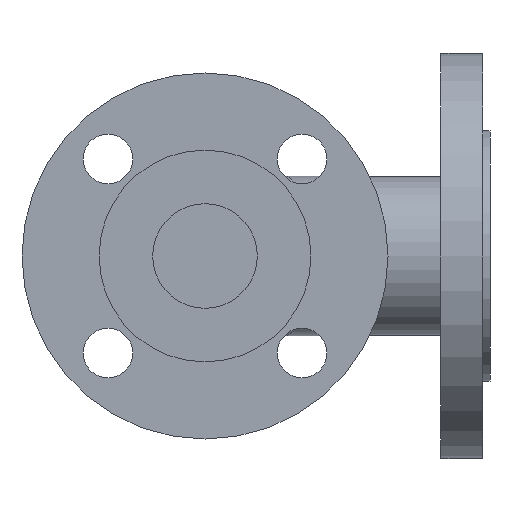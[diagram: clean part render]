
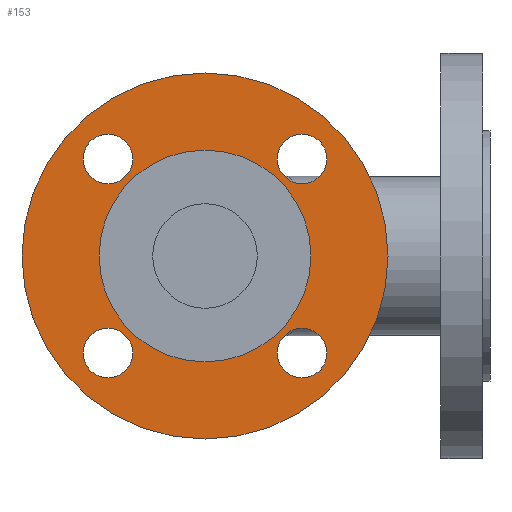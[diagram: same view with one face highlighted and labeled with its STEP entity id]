
A CAD part, front view. The second image highlights one B-rep face of the part: STEP entity #153.
In plain terms, the highlighted planar face has unit normal (0, -1, 0).
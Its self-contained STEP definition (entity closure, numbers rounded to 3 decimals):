
#153=ADVANCED_FACE('',(#711,#712,#713,#714,#715,#716),#710,.T.);
#710=PLANE('',#2372);
#711=FACE_OUTER_BOUND('',#2373,.T.);
#712=FACE_BOUND('',#2374,.T.);
#713=FACE_BOUND('',#2375,.T.);
#714=FACE_BOUND('',#2376,.T.);
#715=FACE_BOUND('',#2377,.T.);
#716=FACE_BOUND('',#2378,.T.);
#2369=CARTESIAN_POINT('',(-131.244,-134.,80.));
#2370=DIRECTION('',(0.,-1.,0.));
#2371=DIRECTION('',(0.,0.,-1.));
#2372=AXIS2_PLACEMENT_3D('',#2369,#2370,#2371);
#2373=EDGE_LOOP('',(#4756,#4757));
#2374=EDGE_LOOP('',(#4758,#4759));
#2375=EDGE_LOOP('',(#4760,#4761,#4762));
#2376=EDGE_LOOP('',(#4763,#4764));
#2377=EDGE_LOOP('',(#4765,#4766));
#2378=EDGE_LOOP('',(#4767,#4768,#4769));
#4756=ORIENTED_EDGE('',*,*,#5581,.F.);
#4757=ORIENTED_EDGE('',*,*,#5582,.F.);
#4758=ORIENTED_EDGE('',*,*,#5583,.F.);
#4759=ORIENTED_EDGE('',*,*,#5584,.F.);
#4760=ORIENTED_EDGE('',*,*,#5585,.F.);
#4761=ORIENTED_EDGE('',*,*,#5586,.F.);
#4762=ORIENTED_EDGE('',*,*,#5587,.F.);
#4763=ORIENTED_EDGE('',*,*,#5588,.F.);
#4764=ORIENTED_EDGE('',*,*,#5589,.F.);
#4765=ORIENTED_EDGE('',*,*,#5590,.T.);
#4766=ORIENTED_EDGE('',*,*,#5591,.T.);
#4767=ORIENTED_EDGE('',*,*,#5592,.F.);
#4768=ORIENTED_EDGE('',*,*,#5593,.F.);
#4769=ORIENTED_EDGE('',*,*,#5594,.F.);
#5581=EDGE_CURVE('',#6725,#6726,#6727,.T.);
#5582=EDGE_CURVE('',#6726,#6725,#6733,.T.);
#5583=EDGE_CURVE('',#6739,#6740,#6741,.T.);
#5584=EDGE_CURVE('',#6740,#6739,#6747,.T.);
#5585=EDGE_CURVE('',#6753,#6754,#6755,.T.);
#5586=EDGE_CURVE('',#6761,#6753,#6762,.T.);
#5587=EDGE_CURVE('',#6754,#6761,#6768,.T.);
#5588=EDGE_CURVE('',#6774,#6775,#6776,.T.);
#5589=EDGE_CURVE('',#6775,#6774,#6782,.T.);
#5590=EDGE_CURVE('',#6788,#6789,#6790,.T.);
#5591=EDGE_CURVE('',#6789,#6788,#6796,.T.);
#5592=EDGE_CURVE('',#6802,#6803,#6804,.T.);
#5593=EDGE_CURVE('',#6810,#6802,#6811,.T.);
#5594=EDGE_CURVE('',#6803,#6810,#6817,.T.);
#6725=VERTEX_POINT('',#9528);
#6726=VERTEX_POINT('',#9529);
#6727=CIRCLE('',#9533,70.);
#6733=CIRCLE('',#9537,70.);
#6739=VERTEX_POINT('',#9538);
#6740=VERTEX_POINT('',#9539);
#6741=CIRCLE('',#9543,9.5);
#6747=CIRCLE('',#9547,9.5);
#6753=VERTEX_POINT('',#9548);
#6754=VERTEX_POINT('',#9549);
#6755=CIRCLE('',#9553,9.5);
#6761=VERTEX_POINT('',#9554);
#6762=CIRCLE('',#9558,9.5);
#6768=CIRCLE('',#9562,9.5);
#6774=VERTEX_POINT('',#9563);
#6775=VERTEX_POINT('',#9564);
#6776=CIRCLE('',#9568,9.5);
#6782=CIRCLE('',#9572,9.5);
#6788=VERTEX_POINT('',#9573);
#6789=VERTEX_POINT('',#9574);
#6790=CIRCLE('',#9578,40.5);
#6796=CIRCLE('',#9582,40.5);
#6802=VERTEX_POINT('',#9583);
#6803=VERTEX_POINT('',#9584);
#6804=CIRCLE('',#9588,9.5);
#6810=VERTEX_POINT('',#9589);
#6811=CIRCLE('',#9593,9.5);
#6817=CIRCLE('',#9597,9.5);
#9528=CARTESIAN_POINT('',(0.,-134.,-70.));
#9529=CARTESIAN_POINT('',(0.,-134.,70.));
#9530=CARTESIAN_POINT('',(0.,-134.,0.));
#9531=DIRECTION('',(0.,1.,0.));
#9532=DIRECTION('',(0.,0.,1.));
#9533=AXIS2_PLACEMENT_3D('',#9530,#9531,#9532);
#9534=CARTESIAN_POINT('',(0.,-134.,0.));
#9535=DIRECTION('',(0.,1.,0.));
#9536=DIRECTION('',(0.,0.,1.));
#9537=AXIS2_PLACEMENT_3D('',#9534,#9535,#9536);
#9538=CARTESIAN_POINT('',(37.123,-134.,-46.623));
#9539=CARTESIAN_POINT('',(37.123,-134.,-27.623));
#9540=CARTESIAN_POINT('',(37.123,-134.,-37.123));
#9541=DIRECTION('',(0.,-1.,0.));
#9542=DIRECTION('',(0.,0.,1.));
#9543=AXIS2_PLACEMENT_3D('',#9540,#9541,#9542);
#9544=CARTESIAN_POINT('',(37.123,-134.,-37.123));
#9545=DIRECTION('',(0.,-1.,0.));
#9546=DIRECTION('',(0.,0.,1.));
#9547=AXIS2_PLACEMENT_3D('',#9544,#9545,#9546);
#9548=CARTESIAN_POINT('',(37.123,-134.,46.623));
#9549=CARTESIAN_POINT('',(27.623,-134.,37.123));
#9550=CARTESIAN_POINT('',(37.123,-134.,37.123));
#9551=DIRECTION('',(0.,-1.,0.));
#9552=DIRECTION('',(-1.,0.,0.));
#9553=AXIS2_PLACEMENT_3D('',#9550,#9551,#9552);
#9554=CARTESIAN_POINT('',(37.124,-134.,27.623));
#9555=CARTESIAN_POINT('',(37.123,-134.,37.123));
#9556=DIRECTION('',(0.,-1.,0.));
#9557=DIRECTION('',(-1.,0.,0.));
#9558=AXIS2_PLACEMENT_3D('',#9555,#9556,#9557);
#9559=CARTESIAN_POINT('',(37.123,-134.,37.123));
#9560=DIRECTION('',(0.,-1.,0.));
#9561=DIRECTION('',(-1.,0.,0.));
#9562=AXIS2_PLACEMENT_3D('',#9559,#9560,#9561);
#9563=CARTESIAN_POINT('',(-37.123,-134.,46.623));
#9564=CARTESIAN_POINT('',(-37.123,-134.,27.623));
#9565=CARTESIAN_POINT('',(-37.123,-134.,37.123));
#9566=DIRECTION('',(0.,-1.,0.));
#9567=DIRECTION('',(0.,0.,-1.));
#9568=AXIS2_PLACEMENT_3D('',#9565,#9566,#9567);
#9569=CARTESIAN_POINT('',(-37.123,-134.,37.123));
#9570=DIRECTION('',(0.,-1.,0.));
#9571=DIRECTION('',(0.,0.,-1.));
#9572=AXIS2_PLACEMENT_3D('',#9569,#9570,#9571);
#9573=CARTESIAN_POINT('',(0.,-134.,40.5));
#9574=CARTESIAN_POINT('',(0.,-134.,-40.5));
#9575=CARTESIAN_POINT('',(0.,-134.,0.));
#9576=DIRECTION('',(0.,1.,0.));
#9577=DIRECTION('',(0.,0.,1.));
#9578=AXIS2_PLACEMENT_3D('',#9575,#9576,#9577);
#9579=CARTESIAN_POINT('',(0.,-134.,0.));
#9580=DIRECTION('',(0.,1.,0.));
#9581=DIRECTION('',(0.,0.,1.));
#9582=AXIS2_PLACEMENT_3D('',#9579,#9580,#9581);
#9583=CARTESIAN_POINT('',(-37.124,-134.,-46.623));
#9584=CARTESIAN_POINT('',(-27.623,-134.,-37.123));
#9585=CARTESIAN_POINT('',(-37.123,-134.,-37.123));
#9586=DIRECTION('',(0.,-1.,0.));
#9587=DIRECTION('',(1.,0.,0.));
#9588=AXIS2_PLACEMENT_3D('',#9585,#9586,#9587);
#9589=CARTESIAN_POINT('',(-37.123,-134.,-27.623));
#9590=CARTESIAN_POINT('',(-37.123,-134.,-37.123));
#9591=DIRECTION('',(0.,-1.,0.));
#9592=DIRECTION('',(1.,0.,0.));
#9593=AXIS2_PLACEMENT_3D('',#9590,#9591,#9592);
#9594=CARTESIAN_POINT('',(-37.123,-134.,-37.123));
#9595=DIRECTION('',(0.,-1.,0.));
#9596=DIRECTION('',(1.,0.,0.));
#9597=AXIS2_PLACEMENT_3D('',#9594,#9595,#9596);
